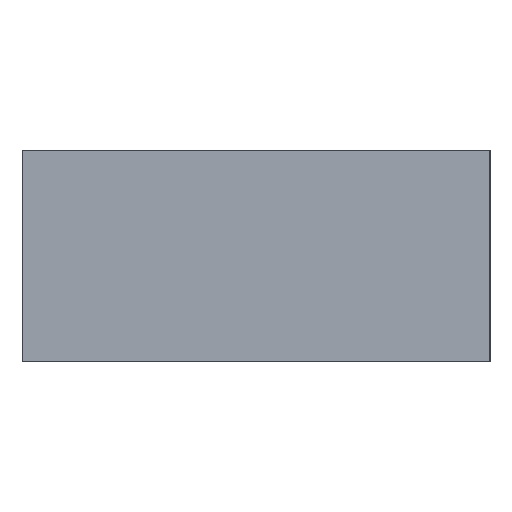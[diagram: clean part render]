
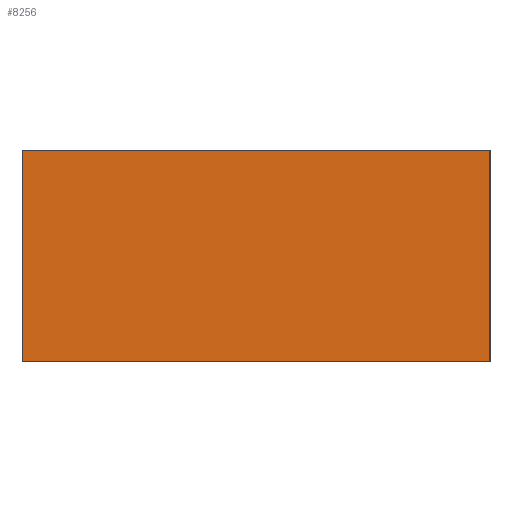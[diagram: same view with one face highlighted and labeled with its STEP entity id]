
A CAD part, left-side view. The second image highlights one B-rep face of the part: STEP entity #8256.
In plain terms, the highlighted planar face has unit normal (-1, 0, 0).
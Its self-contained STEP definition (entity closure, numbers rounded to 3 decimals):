
#706=ORIENTED_EDGE('',*,*,#1857,.T.);
#707=ORIENTED_EDGE('',*,*,#1858,.F.);
#708=ORIENTED_EDGE('',*,*,#1859,.T.);
#709=ORIENTED_EDGE('',*,*,#1819,.T.);
#1819=EDGE_CURVE('',#2396,#2395,#2893,.T.);
#1857=EDGE_CURVE('',#2395,#2432,#2918,.T.);
#1858=EDGE_CURVE('',#2433,#2432,#2919,.T.);
#1859=EDGE_CURVE('',#2433,#2396,#2920,.T.);
#2395=VERTEX_POINT('',#11496);
#2396=VERTEX_POINT('',#11498);
#2432=VERTEX_POINT('',#11666);
#2433=VERTEX_POINT('',#11668);
#2893=LINE('',#11497,#3065);
#2918=LINE('',#11665,#3090);
#2919=LINE('',#11667,#3091);
#2920=LINE('',#11669,#3092);
#3065=VECTOR('',#9559,1000.);
#3090=VECTOR('',#9610,1000.);
#3091=VECTOR('',#9611,1000.);
#3092=VECTOR('',#9612,1000.);
#3226=EDGE_LOOP('',(#706,#707,#708,#709));
#4056=FACE_BOUND('',#3226,.T.);
#4871=PLANE('',#8721);
#8256=ADVANCED_FACE('',(#4056),#4871,.F.);
#8721=AXIS2_PLACEMENT_3D('',#11664,#9608,#9609);
#9559=DIRECTION('',(0.,0.,-1.));
#9608=DIRECTION('',(1.,0.,0.));
#9609=DIRECTION('',(0.,0.,-1.));
#9610=DIRECTION('',(0.,-1.,0.));
#9611=DIRECTION('',(0.,0.,-1.));
#9612=DIRECTION('',(0.,1.,0.));
#11496=CARTESIAN_POINT('',(-65.,30.,0.));
#11497=CARTESIAN_POINT('',(-65.,30.,15.));
#11498=CARTESIAN_POINT('',(-65.,30.,27.1));
#11664=CARTESIAN_POINT('',(-65.,30.,15.));
#11665=CARTESIAN_POINT('',(-65.,30.,0.));
#11666=CARTESIAN_POINT('',(-65.,-30.,0.));
#11667=CARTESIAN_POINT('',(-65.,-30.,15.));
#11668=CARTESIAN_POINT('',(-65.,-30.,27.1));
#11669=CARTESIAN_POINT('',(-65.,-30.,27.1));
